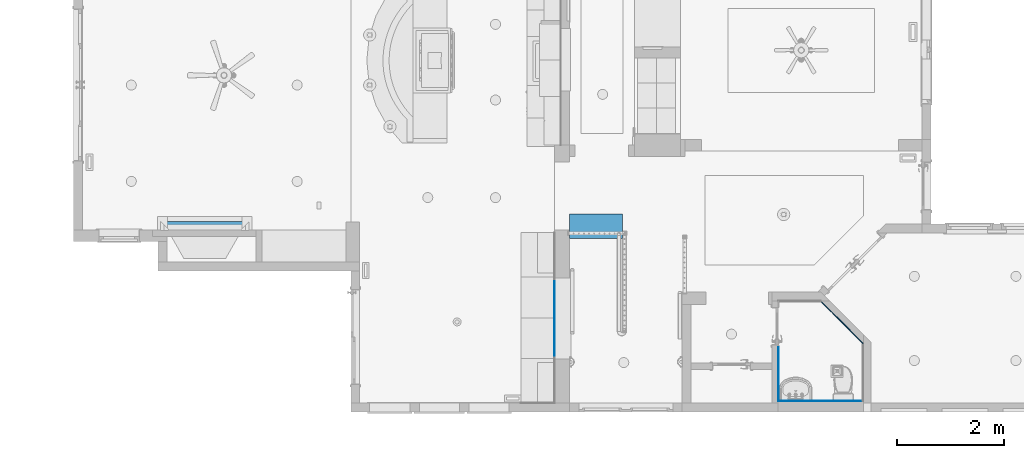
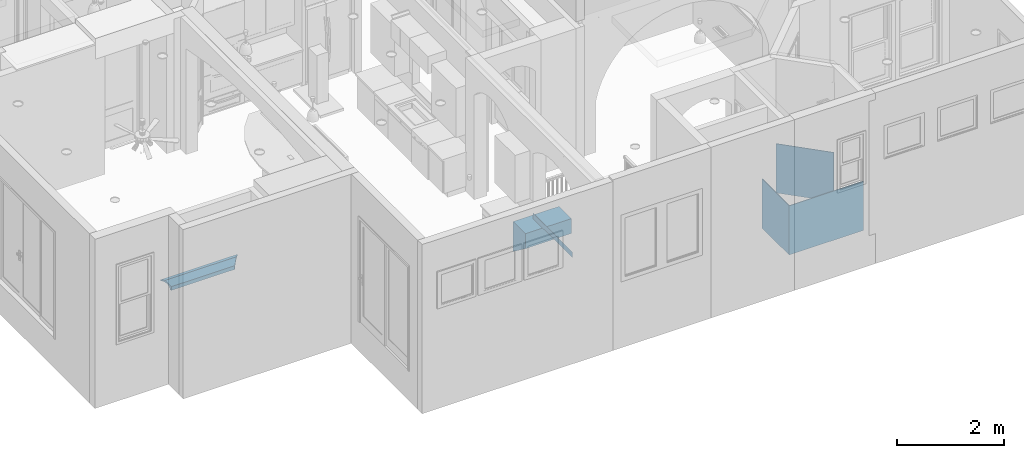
# One storey, part 1 of 77: 6 beams.
"""IFC2X3 building model written with IfcOpenShell, lengths in inches."""

from ifc_helpers import new_model, entity, si_unit, converted_unit, derived_unit, money_unit, direction, frame, origin_with_axes, place, context, subcontext, project, spatial, faceted_brep, material, type_object, element, save


model = new_model("IFC2X3")

# Units and contexts
model_context = context("Model", 3, precision=0.000393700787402, world=origin_with_axes(), true_north=direction((0.0, 1.0)))
body_context = subcontext(model_context, "Body", "Model", "MODEL_VIEW")
ifc_project = project(units=[converted_unit("LENGTHUNIT", "INCH", entity("IfcPositiveLengthMeasure", 0.0254), si_unit("LENGTHUNIT", "METRE"), dimensions=[1, 0, 0, 0, 0, 0, 0]), converted_unit("AREAUNIT", "SQUARE_FOOT", entity("IfcPositiveLengthMeasure", 0.09290304), si_unit("AREAUNIT", "SQUARE_METRE"), dimensions=[2, 0, 0, 0, 0, 0, 0]), si_unit("PLANEANGLEUNIT", "RADIAN"), si_unit("SOLIDANGLEUNIT", "STERADIAN"), money_unit("USD"), converted_unit("TIMEUNIT", "Year", entity("IfcTimeMeasure", 31556926.0), si_unit("TIMEUNIT", "SECOND"), dimensions=[0, 0, 1, 0, 0, 0, 0]), si_unit("MASSUNIT", "GRAM", prefix="KILO"), si_unit("THERMODYNAMICTEMPERATUREUNIT", "DEGREE_CELSIUS"), si_unit("LUMINOUSINTENSITYUNIT", "LUMEN"), si_unit("ENERGYUNIT", "JOULE", prefix="MEGA"), derived_unit("THERMALCONDUCTANCEUNIT", [(si_unit("POWERUNIT", "WATT"), 1), (si_unit("LENGTHUNIT", "METRE"), -1), (si_unit("THERMODYNAMICTEMPERATUREUNIT", "KELVIN"), -1)]), derived_unit("SPECIFICHEATCAPACITYUNIT", [(si_unit("ENERGYUNIT", "JOULE"), 1), (si_unit("MASSUNIT", "GRAM", prefix="KILO"), -1), (si_unit("THERMODYNAMICTEMPERATUREUNIT", "KELVIN"), -1)]), derived_unit("MASSDENSITYUNIT", [(si_unit("MASSUNIT", "GRAM", prefix="KILO"), 1), (si_unit("VOLUMEUNIT", "CUBIC_METRE"), -1)])], contexts=[model_context])

# Site, building, storey
site_placement = place(None, origin_with_axes())
site = spatial("IfcSite", under=ifc_project, at=site_placement, Name="Site", CompositionType="ELEMENT")
building_placement = place(site_placement, origin_with_axes())
building = spatial("IfcBuilding", under=site, at=building_placement, Name="Building", CompositionType="ELEMENT")
storey_placement = place(building_placement, frame((0.0, 0.0, 127.952755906), z_axis=(0.0, 0.0, 1.0), x_axis=(1.0, 0.0, 0.0)))
storey = spatial("IfcBuildingStorey", under=building, at=storey_placement, Name="Second Floor", CompositionType="ELEMENT", Elevation=127.953)

# Beams
ifc_material_1 = material(Name="Tile - Wall")
beam_type_1 = type_object("IfcBeamType", Name="Tile - Wall 15 x 1120", PredefinedType="NOTDEFINED")
beam_1_placement = place(storey_placement, frame((797.915918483, 60.5627886, 0.0), z_axis=(0.0, 0.0, 1.0), x_axis=(-1.0, 0.0, 0.0)))
element("IfcBeam", 1, at=beam_1_placement, inside=storey, type_object=beam_type_1, material=ifc_material_1, Name="BMR - 113", context=body_context, shape_type="Brep", body=[
    faceted_brep([(-0.590551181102, 39.1910493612, 44.094488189), (-0.590551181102, 39.1910493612, 0.0157480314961), (-0.590551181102, 0.0, 0.0157480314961), (-0.590551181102, 0.0, 44.094488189), (-4.39841175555e-05, 39.7816005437, 44.094488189), (-4.39841175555e-05, 39.7816005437, 0.0157480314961), (-0.00131744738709, 0.0, 0.0157480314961), (-0.00131744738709, 0.0, 44.094488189)], [[[0, 1, 2, 3]], [[4, 5, 1, 0]], [[5, 6, 2, 1]], [[3, 2, 6, 7]], [[0, 3, 7, 4]], [[7, 6, 5, 4]]]),
])
beam_2_placement = place(storey_placement, frame((797.915918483, 20.7811880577, 0.0), z_axis=(0.0, 0.0, 1.0), x_axis=(0.0, -1.0, 0.0)))
element("IfcBeam", 2, at=beam_2_placement, inside=storey, type_object=beam_type_1, material=ifc_material_1, Name="BMR - 113", context=body_context, shape_type="Brep", body=[
    faceted_brep([(0.0, 0.0, 44.094488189), (0.0, 0.0, 0.0157480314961), (0.0, 62.9925014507, 0.0157480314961), (0.0, 62.9925014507, 44.094488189), (-0.590551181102, 0.590551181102, 44.094488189), (-0.590551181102, 0.590551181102, 0.0157480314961), (-0.590551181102, 62.4019502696, 0.0157480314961), (-0.590551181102, 62.4019502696, 44.094488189)], [[[0, 1, 2, 3]], [[4, 5, 1, 0]], [[5, 6, 2, 1]], [[3, 2, 6, 7]], [[7, 4, 0, 3]], [[7, 6, 5, 4]]]),
])
beam_3_placement = place(storey_placement, frame((860.908419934, 63.6631959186, 0.0), z_axis=(0.0, 0.0, 1.0), x_axis=(0.706969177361, 0.707244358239, 0.0)))
element("IfcBeam", 3, at=beam_3_placement, inside=storey, type_object=beam_type_1, material=ifc_material_1, Name="BMR - 113", context=body_context, shape_type="Brep", body=[
    faceted_brep([(-0.590551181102, 0.244681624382, 44.094488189), (-0.590551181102, 0.244681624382, 0.0157480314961), (-0.0452453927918, 0.0187464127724, 0.0157480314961), (-0.0452453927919, 0.0187464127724, 44.094488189), (-0.590551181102, 44.0697562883, 44.094488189), (-0.590551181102, 44.0697562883, 0.0157480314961), (0.0, 44.3143032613, 0.0157480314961), (0.0, 40.3741077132, 0.0157480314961), (0.0, 40.3741077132, 44.094488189), (0.0, 44.3143032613, 44.094488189)], [[[0, 1, 2, 3]], [[4, 5, 1, 0]], [[6, 7, 2, 1, 5]], [[3, 2, 7, 8]], [[4, 0, 3, 8, 9]], [[9, 6, 5, 4]], [[8, 7, 6, 9]]]),
])
ifc_material_2 = material(Name="Generic - Structural")
beam_type_2 = type_object("IfcBeamType", Name="Plaster Cornice/Coving 150 x 205", PredefinedType="NOTDEFINED")
beam_4_placement = place(storey_placement, frame((347.850842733, 147.656946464, 57.0866141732), z_axis=(0.0, 0.0, 1.0), x_axis=(0.0, -1.0, 0.0)))
element("IfcBeam", 4, at=beam_4_placement, inside=storey, type_object=beam_type_2, material=ifc_material_2, Name="BMR - 041", context=body_context, shape_type="Brep", body=[
    faceted_brep([(-5.90552638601, -5.90552611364, -1.0088593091), (-5.90552638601, 59.3934584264, -1.0088593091), (-4.88176828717, 58.3697003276, -1.14877721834), (-4.88176828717, -4.88176806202, -1.14877721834), (-5.90552638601, -5.90552611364, 0.0), (-5.90552638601, 59.3934584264, 0.0), (-3.45937726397, 56.9473093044, 0.0), (0.0, 53.4879320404, -4.72780880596), (0.0, 53.4879320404, -8.07087447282), (-0.738190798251, 54.2261228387, -8.07087447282), (-0.835718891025, 54.3236509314, -6.70518667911), (-1.13153079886, 54.6194628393, -5.36835827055), (-1.5951648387, 55.0830968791, -4.17566887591), (-2.25166835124, 55.7396003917, -3.07727566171), (-3.00852865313, 56.4964606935, -2.22277367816), (-3.9280726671, 57.4160047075, -1.54642320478), (-3.9280726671, -3.92807248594, -1.54642320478), (-3.00852865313, -3.00852851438, -2.22277367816), (-2.25166835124, -2.25166824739, -3.07727566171), (-1.5951648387, -1.59516476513, -4.17566887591), (-1.13153079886, -1.13153074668, -5.36835827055), (-0.835718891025, -0.835718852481, -6.70518667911), (-0.738190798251, -0.738190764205, -8.07087447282), (0.0, 0.0, -8.07087447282), (0.0, 0.0, -4.72780880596), (-3.45937726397, -3.45937710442, 0.0)], [[[0, 1, 2, 3]], [[4, 5, 1, 0]], [[2, 1, 5, 6, 7, 8, 9, 10, 11, 12, 13, 14, 15]], [[3, 2, 15, 16]], [[4, 0, 3, 16, 17, 18, 19, 20, 21, 22, 23, 24, 25]], [[25, 6, 5, 4]], [[24, 7, 6, 25]], [[23, 8, 7, 24]], [[22, 9, 8, 23]], [[21, 10, 9, 22]], [[20, 11, 10, 21]], [[19, 12, 11, 20]], [[18, 13, 12, 19]], [[17, 14, 13, 18]], [[16, 15, 14, 17]]]),
])
beam_type_3 = type_object("IfcBeamType", Name="stairs floor 460 x 685", PredefinedType="NOTDEFINED")
beam_5_placement = place(storey_placement, frame((643.989643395, 159.180836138, -26.9527559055), z_axis=(0.0, 0.0, 1.0), x_axis=(0.0, -1.0, 0.0)))
element("IfcBeam", 5, at=beam_5_placement, inside=storey, type_object=beam_type_3, material=ifc_material_2, Name="BMR - 060", context=body_context, shape_type="Brep", body=[
    faceted_brep([(0.0, 0.0, 0.0), (0.0, 38.9349852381, 0.0), (18.1102364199, 38.9349852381, 13.582677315), (18.1102364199, 0.0, 13.582677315), (0.0, 0.0, 26.968503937), (0.0, 38.9349852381, 26.968503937), (18.1102364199, 38.9349852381, 26.968503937), (18.1102364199, 0.0, 26.968503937)], [[[0, 1, 2, 3]], [[4, 5, 1, 0]], [[2, 1, 5, 6]], [[3, 2, 6, 7]], [[4, 0, 3, 7]], [[7, 6, 5, 4]]]),
])
beam_type_4 = type_object("IfcBeamType", Name="Tile - Wall 5 x 125", PredefinedType="NOTDEFINED")
beam_6_placement = place(storey_placement, frame((632.966021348, 52.871739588, 36.0236220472), z_axis=(0.0, 0.0, 1.0), x_axis=(1.0, 0.0, 0.0)))
element("IfcBeam", 6, at=beam_6_placement, inside=storey, type_object=beam_type_4, material=ifc_material_1, Name="BMR - 041", context=body_context, shape_type="Brep", body=[
    faceted_brep([(-0.196850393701, 0.0, 0.0), (-0.196850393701, 58.0354330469, 0.0), (0.0, 58.0354330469, 0.0), (0.0, 0.0, 0.0), (-0.196850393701, 0.0, 4.92125984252), (-0.196850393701, 58.0354330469, 4.92125984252), (0.0, 58.0354330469, 4.92125984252), (0.0, 0.0, 4.92125984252)], [[[0, 1, 2, 3]], [[4, 5, 1, 0]], [[2, 1, 5, 6]], [[3, 2, 6, 7]], [[4, 0, 3, 7]], [[7, 6, 5, 4]]]),
])

save(model, "model.ifc")
